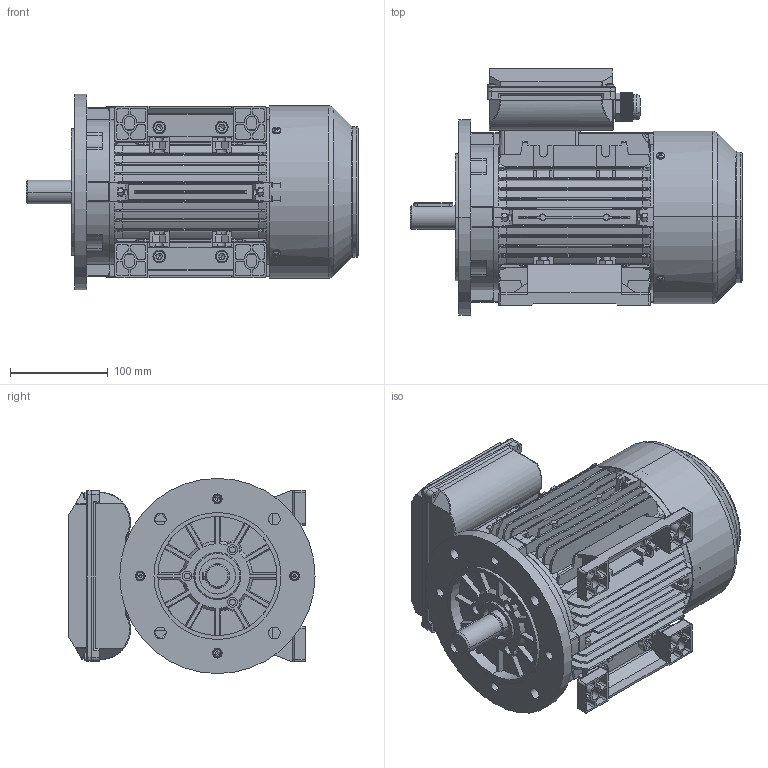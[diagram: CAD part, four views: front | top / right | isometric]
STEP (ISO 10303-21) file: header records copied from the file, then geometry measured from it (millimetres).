
FILE_DESCRIPTION (( 'STEP AP203' ), '1' );
FILE_NAME ('ML2 90L B35(臏諉盄碟).STEP', '2024-05-06T03:12:53', ( '' ), ( '' ), 'SwSTEP 2.0', 'SolidWorks 2016', '' );
FILE_SCHEMA (( 'CONFIG_CONTROL_DESIGN' ));
Length unit declared in the file: millimetre
Products named in the file (19): hexagon socket head cap screws gb_GB_FASTENER_SCREWS_HSHCS M8X25-N; ML80-ML90諉盄碟裔(臏); 90瑞珔; TA90瑞欶; cross recessed thread forming screws gb_GB_CROSS_SCREWS_TYPE138 M4X12-N; T90L菁褐; T90L儂褲; TA90B5楊擘1; hexagon nuts grade c gb_GB_FASTENER_NUT_SNC1 M5-N; plain parallel keys_GB_CONNECTING_PIECE_KEYS_CSK 8X40; 80-100堤盄蹟杶; hexagon nuts grade c gb_GB_FASTENER_NUT_SNC1 M8-N; ML80-ML90諉盄碟釱(臏); TA90綴裔1; ML臏諉盄碟郪磁II; T90L蛌粣; ML2 90L B35(臏諉盄碟); cross recessed thread forming screws gb_GB_CROSS_SCREWS_TYPE138 M4X10-N; hexagon socket head cap screws gb_GB_FASTENER_SCREWS_HSHCS M5X25-N
Assembly tree (45 placements, depth 3):
  ML2 90L B35(臏諉盄碟)
    T90L儂褲
    T90L菁褐  x2
    TA90瑞欶
    TA90綴裔1
    90瑞珔
    T90L蛌粣
    plain parallel keys_GB_CONNECTING_PIECE_KEYS_CSK 8X40
    hexagon nuts grade c gb_GB_FASTENER_NUT_SNC1 M5-N  x8
    hexagon socket head cap screws gb_GB_FASTENER_SCREWS_HSHCS M5X25-N  x8
    hexagon socket head cap screws gb_GB_FASTENER_SCREWS_HSHCS M8X25-N  x4
    hexagon nuts grade c gb_GB_FASTENER_NUT_SNC1 M8-N  x4
    cross recessed thread forming screws gb_GB_CROSS_SCREWS_TYPE138 M4X12-N  x4
    ML臏諉盄碟郪磁II
      cross recessed thread forming screws gb_GB_CROSS_SCREWS_TYPE138 M4X10-N  x4
      80-100堤盄蹟杶
      ML80-ML90諉盄碟釱(臏)
      ML80-ML90諉盄碟裔(臏)
    TA90B5楊擘1
Bounding box: 340 x 252 x 200 mm (x, y, z)
Volume: 1613026.6 mm3; surface area: 1005902.7 mm2
Topology: 44 solids, 44 shells, 4301 faces, 11504 edges, 7387 vertices
Faces by surface type: plane 2627, cylinder 1147, cone 281, torus 164, sphere 68, bspline 14
Entity records: 122023 total; most frequent: CARTESIAN_POINT 29276, ORIENTED_EDGE 19622, DIRECTION 17751, EDGE_CURVE 9811, VERTEX_POINT 6337, LINE 6261, VECTOR 6261, AXIS2_PLACEMENT_3D 5745
